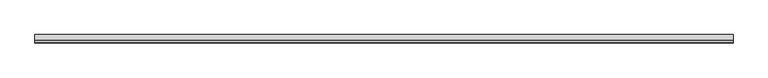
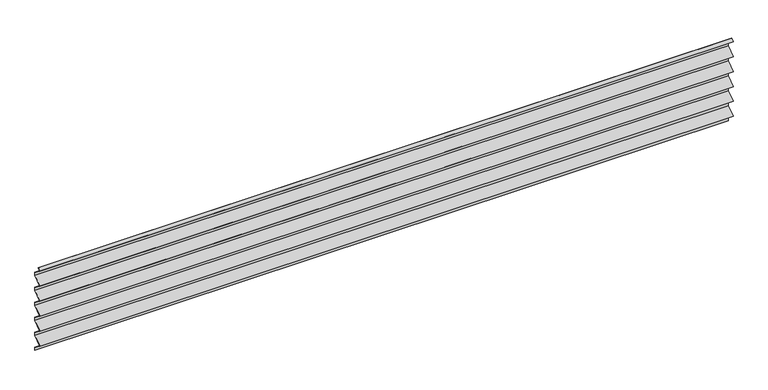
"""IFC4 building model written with IfcOpenShell, lengths in millimetres: plate geometry, HIANSA - H20.F09.008-CHAPA PERFILADA FACHADA HORIZONTAL - MT53MA8 - Panel de Muro Cortina : -."""

import ifcopenshell
import ifcopenshell.guid

model = None  # the IFC model being written
_history = None  # IfcOwnerHistory: only IFC2X3 demands one
_inside = {}  # id of a spatial element -> (the spatial element, [elements in it])
_under = {}  # id of a project, library or spatial element -> (it, [spatial elements below it])
_declared = {}  # id of a project -> (the project, [libraries it declares])
_typed = {}  # id of a type object -> (the type object, [elements of that type])
_made_of = {}  # id of a material, layer set ... -> (it, [elements and type objects made of it])


def new_model(schema):
    """Start an empty IFC model of exactly this schema.

    Asked for "IFC4X3", IfcOpenShell would pick the latest addendum, in which some entities
    have other attributes; the version numbers below select the first issue.
    IFC2X3 requires an IfcOwnerHistory on every rooted entity: one is made here for all.
    """
    global model, _history
    if schema == "IFC4X3":
        model = ifcopenshell.file(schema_version=(4, 3, 0, 0))
    else:
        model = ifcopenshell.file(schema=schema)
    _inside.clear()
    _under.clear()
    _declared.clear()
    _typed.clear()
    _made_of.clear()
    _history = None
    if model.schema == "IFC2X3":
        org = make("IfcOrganization", Name="unknown")
        user = make(
            "IfcPersonAndOrganization",
            ThePerson=make("IfcPerson", FamilyName="unknown"),
            TheOrganization=org,
        )
        app = make(
            "IfcApplication",
            ApplicationDeveloper=org,
            Version="unknown",
            ApplicationFullName="unknown",
            ApplicationIdentifier="unknown",
        )
        _history = make(
            "IfcOwnerHistory",
            OwningUser=user,
            OwningApplication=app,
            ChangeAction="ADDED",
            CreationDate=0,
        )
    return model


def make(cls, **values):
    """One entity of the class cls with the attributes given. An attribute that is None is left unset."""
    return model.create_entity(
        cls, **{name: value for name, value in values.items() if value is not None}
    )


def rooted(cls, **values):
    """An entity with a GlobalId (a new one), such as an element, a storey or a relation."""
    return make(cls, GlobalId=ifcopenshell.guid.new(), OwnerHistory=_history, **values)


def si_unit(unit_type, name, prefix=None):
    """IfcSIUnit, for example si_unit("LENGTHUNIT", "METRE", prefix="MILLI")."""
    return make("IfcSIUnit", UnitType=unit_type, Prefix=prefix, Name=name)


def assignment(units):
    """IfcUnitAssignment: the units of a project."""
    return None if units is None else make("IfcUnitAssignment", Units=units)


def point(xyz):
    """IfcCartesianPoint."""
    return None if xyz is None else make("IfcCartesianPoint", Coordinates=xyz)


def direction(xyz):
    """IfcDirection."""
    return None if xyz is None else make("IfcDirection", DirectionRatios=xyz)


def frame(location, z_axis=None, x_axis=None):
    """IfcAxis2Placement3D, a coordinate frame: its origin and axes. An axis left out is left unset."""
    return make(
        "IfcAxis2Placement3D",
        Location=point(location),
        Axis=direction(z_axis),
        RefDirection=direction(x_axis),
    )


def origin():
    """The frame at (0, 0, 0) with its axes left unset."""
    return frame((0.0, 0.0, 0.0))


def place(relative_to, where):
    """IfcLocalPlacement: puts the frame where relative to a parent placement (None: the world)."""
    return make(
        "IfcLocalPlacement", PlacementRelTo=relative_to, RelativePlacement=where
    )


def context(
    kind, dimensions, precision=None, world=None, true_north=None, identifier=None
):
    """IfcGeometricRepresentationContext, for example the 3D "Model" context."""
    return make(
        "IfcGeometricRepresentationContext",
        ContextIdentifier=identifier,
        ContextType=kind,
        CoordinateSpaceDimension=dimensions,
        Precision=precision,
        WorldCoordinateSystem=world,
        TrueNorth=true_north,
    )


def project(units=None, contexts=None):
    """IfcProject with its units and contexts."""
    return rooted(
        "IfcProject",
        Name="project",
        RepresentationContexts=contexts,
        UnitsInContext=assignment(units),
    )


def spatial(cls, under=None, at=None, **own):
    """A site, building, storey or space (cls), placed at a placement, below another one or the project."""
    s = rooted(cls, ObjectPlacement=at, **own)
    if under is not None:
        _under.setdefault(under.id(), (under, []))[1].append(s)
    return s


def polyline(points):
    """IfcPolyline through the points."""
    return make("IfcPolyline", Points=[point(p) for p in points])


def outline(outer, holes=None, kind="AREA"):
    """IfcArbitraryClosedProfileDef: a profile drawn as a closed curve; with holes, ...WithVoids."""
    if holes is None:
        return make("IfcArbitraryClosedProfileDef", ProfileType=kind, OuterCurve=outer)
    return make(
        "IfcArbitraryProfileDefWithVoids",
        ProfileType=kind,
        OuterCurve=outer,
        InnerCurves=holes,
    )


def extrude(swept, where, along, depth):
    """IfcExtrudedAreaSolid: the profile swept, set in the frame where, extruded along a direction by depth."""
    return make(
        "IfcExtrudedAreaSolid",
        SweptArea=swept,
        Position=where,
        ExtrudedDirection=direction(along),
        Depth=depth,
    )


def shape(context_of_items, identifier, shape_type, items):
    """IfcShapeRepresentation: the items that make up one representation, for example the "Body"."""
    return make(
        "IfcShapeRepresentation",
        ContextOfItems=context_of_items,
        RepresentationIdentifier=identifier,
        RepresentationType=shape_type,
        Items=items,
    )


def source(mapping_origin, context_of_items, identifier, shape_type, items):
    """IfcRepresentationMap: a shape defined once, which mapped items show again and again."""
    return make(
        "IfcRepresentationMap",
        MappingOrigin=mapping_origin,
        MappedRepresentation=shape(context_of_items, identifier, shape_type, items),
    )


def transform(
    local_origin,
    x_axis=None,
    y_axis=None,
    z_axis=None,
    scale=None,
    scale2=None,
    scale3=None,
    uniform=True,
):
    """IfcCartesianTransformationOperator3D, or its non-uniform kind. x_axis, y_axis, z_axis: its Axis1, 2, 3."""
    if uniform:
        return make(
            "IfcCartesianTransformationOperator3D",
            Axis1=direction(x_axis),
            Axis2=direction(y_axis),
            LocalOrigin=point(local_origin),
            Scale=scale,
            Axis3=direction(z_axis),
        )
    return make(
        "IfcCartesianTransformationOperator3DnonUniform",
        Axis1=direction(x_axis),
        Axis2=direction(y_axis),
        LocalOrigin=point(local_origin),
        Scale=scale,
        Axis3=direction(z_axis),
        Scale2=scale2,
        Scale3=scale3,
    )


def mapped(mapping_source, mapping_target):
    """IfcMappedItem: shows the shape of a source again, moved by a transform."""
    return make(
        "IfcMappedItem", MappingSource=mapping_source, MappingTarget=mapping_target
    )


def made_of(thing, what):
    """Note that an element or type object is made of a material, layer set ...; save() writes the relation."""
    if what is not None:
        _made_of.setdefault(what.id(), (what, []))[1].append(thing)
    return thing


def element(
    cls,
    number,
    at=None,
    inside=None,
    cuts=None,
    type_object=None,
    material=None,
    context=None,
    identifier="Body",
    shape_type=None,
    held_by="IfcProductDefinitionShape",
    body=None,
    shapes=None,
    **own,
):
    """One element of the class cls, such as IfcWall. Its Tag is "e" and its number.

    at: its placement. inside: the storey or other place that contains it. cuts: it is an
    opening in that element (IfcRelVoidsElement). A single representation is given by context,
    identifier, shape_type and body (its items); several are given by shapes. held_by: the class
    of the entity that holds the representations. save() writes the other relations.
    """
    e = rooted(cls, Tag="e%d" % number, ObjectPlacement=at, **own)
    if body is not None:
        shapes = [shape(context, identifier, shape_type, body)]
    if shapes is not None:
        e.Representation = make(held_by, Representations=shapes)
    if inside is not None:
        _inside.setdefault(inside.id(), (inside, []))[1].append(e)
    if cuts is not None:
        rooted(
            "IfcRelVoidsElement", RelatingBuildingElement=cuts, RelatedOpeningElement=e
        )
    if type_object is not None:
        _typed.setdefault(type_object.id(), (type_object, []))[1].append(e)
    return made_of(e, material)


def aggregate(whole, parts):
    """IfcRelAggregates: a whole, such as a stair, and the parts it consists of."""
    return rooted("IfcRelAggregates", RelatingObject=whole, RelatedObjects=parts)


def save(model, path):
    """Write the relations noted so far, then the file.

    IfcRelAggregates (storeys below a building ...), IfcRelContainedInSpatialStructure (elements
    in a storey), IfcRelDefinesByType, IfcRelAssociatesMaterial and IfcRelDeclares: one each for
    every whole, place, type object, material and project.
    """
    for whole, parts in _under.values():
        aggregate(whole, parts)
    for where, things in _inside.values():
        rooted(
            "IfcRelContainedInSpatialStructure",
            RelatedElements=things,
            RelatingStructure=where,
        )
    for kind, things in _typed.values():
        rooted("IfcRelDefinesByType", RelatedObjects=things, RelatingType=kind)
    for what, things in _made_of.values():
        rooted("IfcRelAssociatesMaterial", RelatedObjects=things, RelatingMaterial=what)
    for by, libraries in _declared.values():
        rooted("IfcRelDeclares", RelatingContext=by, RelatedDefinitions=libraries)
    model.write(path)


def plate_a66779e1(model_context):
    return source(origin(), model_context, "Body", "SweptSolid", [
        extrude(outline(polyline([(-53.1067873, 552.5445384), (-36.920011, 565.0), (-35.6081845, 565.0), (-51.7949608, 552.5445384), (0.0, 512.6891571), (0.0, 491.9014726), (-51.7949608, 452.0460912), (0.0, 412.1907099), (0.0, 391.4030254), (-51.7949608, 351.5476441), (0.0, 311.6922627), (0.0, 290.9045782), (-51.7949608, 251.0491969), (0.0, 211.1938155), (0.0, 190.4061311), (-51.7949608, 150.5507497), (0.0, 110.6953683), (0.0, 89.9076839), (-51.7949608, 50.0523025), (0.0, 10.1969211), (0.0, -10.1969211), (-0.8, -10.1969211), (-0.8, 9.8030789), (-53.1067873, 50.0523025), (-0.8, 90.3015261), (-0.8, 110.3015261), (-53.1067873, 150.5507497), (-0.8, 190.7999733), (-0.8, 210.7999733), (-53.1067873, 251.0491969), (-0.8, 291.2984205), (-0.8, 311.2984205), (-53.1067873, 351.5476441), (-0.8, 391.7968677), (-0.8, 411.7968677), (-53.1067873, 452.0460912), (-0.8, 492.2953148), (-0.8, 512.2953148), (-53.1067873, 552.5445384)])), frame((-2200.0, 0.0, 0.0), z_axis=(1.0, 0.0, 0.0), x_axis=(0.0, 1.0, 0.0)), (0.0, 0.0, 1.0), 4400.0),
    ])


if __name__ == "__main__":
    model = new_model("IFC4")
    model_context = context("Model", 3, world=origin())
    ifc_project = project(units=[si_unit("LENGTHUNIT", "METRE", prefix="MILLI")], contexts=[model_context])
    site = spatial("IfcSite", under=ifc_project)
    building = spatial("IfcBuilding", under=site)
    placement = place(None, origin())
    plate_shape = plate_a66779e1(model_context)
    element("IfcPlate", 1, ObjectType="HIANSA - H20.F09.008-CHAPA PERFILADA FACHADA HORIZONTAL - MT53MA8 - Panel de Muro Cortina : -", at=placement, inside=building, context=model_context, shape_type="MappedRepresentation", body=[
        mapped(plate_shape, transform((0.0, 0.0, 0.0), x_axis=(1.0, 0.0, 0.0), y_axis=(0.0, 1.0, 0.0), z_axis=(0.0, 0.0, 1.0))),
    ])
    save(model, "model.ifc")
